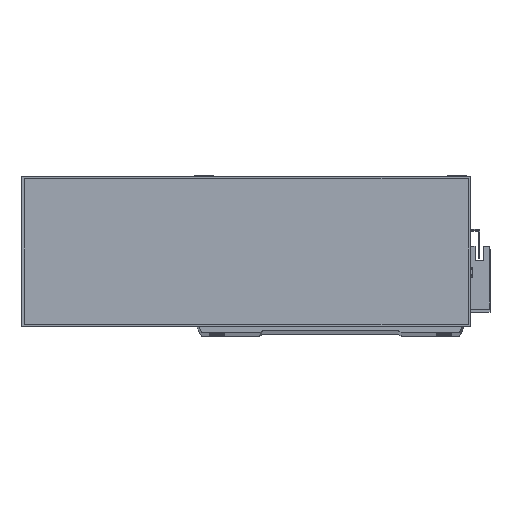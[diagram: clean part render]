
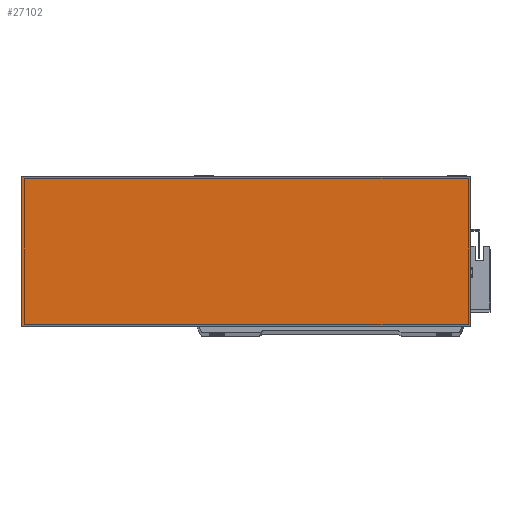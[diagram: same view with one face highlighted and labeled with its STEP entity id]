
A CAD part, top view. The second image highlights one B-rep face of the part: STEP entity #27102.
In plain terms, the highlighted planar face has unit normal (0, 0, 1).
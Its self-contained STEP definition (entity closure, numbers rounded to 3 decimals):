
#147 = VECTOR ( 'NONE', #25543, 1000. ) ;
#1148 = CARTESIAN_POINT ( 'NONE',  ( 277., 0., 50. ) ) ;
#1193 = FACE_OUTER_BOUND ( 'NONE', #5884, .T. ) ;
#2286 = EDGE_CURVE ( 'NONE', #28758, #29414, #23542, .T. ) ;
#2880 = LINE ( 'NONE', #6183, #8408 ) ;
#3801 = DIRECTION ( 'NONE',  ( 0., -1., 0. ) ) ;
#4803 = LINE ( 'NONE', #5362, #28915 ) ;
#5057 = DIRECTION ( 'NONE',  ( 1., 0., 0. ) ) ;
#5362 = CARTESIAN_POINT ( 'NONE',  ( 277., 0., 50. ) ) ;
#5884 = EDGE_LOOP ( 'NONE', ( #13091, #6165, #17605, #19548 ) ) ;
#6165 = ORIENTED_EDGE ( 'NONE', *, *, #22180, .T. ) ;
#6183 = CARTESIAN_POINT ( 'NONE',  ( 0., 0., 50. ) ) ;
#8408 = VECTOR ( 'NONE', #3801, 1000. ) ;
#8790 = CARTESIAN_POINT ( 'NONE',  ( 277., 93., 50. ) ) ;
#10487 = VECTOR ( 'NONE', #5057, 1000. ) ;
#12162 = AXIS2_PLACEMENT_3D ( 'NONE', #27660, #13682, #30008 ) ;
#13091 = ORIENTED_EDGE ( 'NONE', *, *, #30283, .T. ) ;
#13682 = DIRECTION ( 'NONE',  ( 0., 0., -1. ) ) ;
#15118 = EDGE_CURVE ( 'NONE', #19697, #28758, #4803, .T. ) ;
#17605 = ORIENTED_EDGE ( 'NONE', *, *, #15118, .T. ) ;
#18376 = VERTEX_POINT ( 'NONE', #23803 ) ;
#19019 = CARTESIAN_POINT ( 'NONE',  ( 0., 0., 50. ) ) ;
#19548 = ORIENTED_EDGE ( 'NONE', *, *, #2286, .T. ) ;
#19697 = VERTEX_POINT ( 'NONE', #1148 ) ;
#22180 = EDGE_CURVE ( 'NONE', #18376, #19697, #23605, .T. ) ;
#23183 = CARTESIAN_POINT ( 'NONE',  ( 0., 93., 50. ) ) ;
#23542 = LINE ( 'NONE', #23183, #147 ) ;
#23605 = LINE ( 'NONE', #19019, #10487 ) ;
#23803 = CARTESIAN_POINT ( 'NONE',  ( 0., 0., 50. ) ) ;
#25543 = DIRECTION ( 'NONE',  ( -1., 0., 0. ) ) ;
#27102 = ADVANCED_FACE ( 'NONE', ( #1193 ), #29809, .F. ) ;
#27660 = CARTESIAN_POINT ( 'NONE',  ( 0., 0., 50. ) ) ;
#28739 = DIRECTION ( 'NONE',  ( 0., 1., 0. ) ) ;
#28758 = VERTEX_POINT ( 'NONE', #8790 ) ;
#28915 = VECTOR ( 'NONE', #28739, 1000. ) ;
#29414 = VERTEX_POINT ( 'NONE', #30117 ) ;
#29809 = PLANE ( 'NONE',  #12162 ) ;
#30008 = DIRECTION ( 'NONE',  ( -1., 0., 0. ) ) ;
#30117 = CARTESIAN_POINT ( 'NONE',  ( 0., 93., 50. ) ) ;
#30283 = EDGE_CURVE ( 'NONE', #29414, #18376, #2880, .T. ) ;
